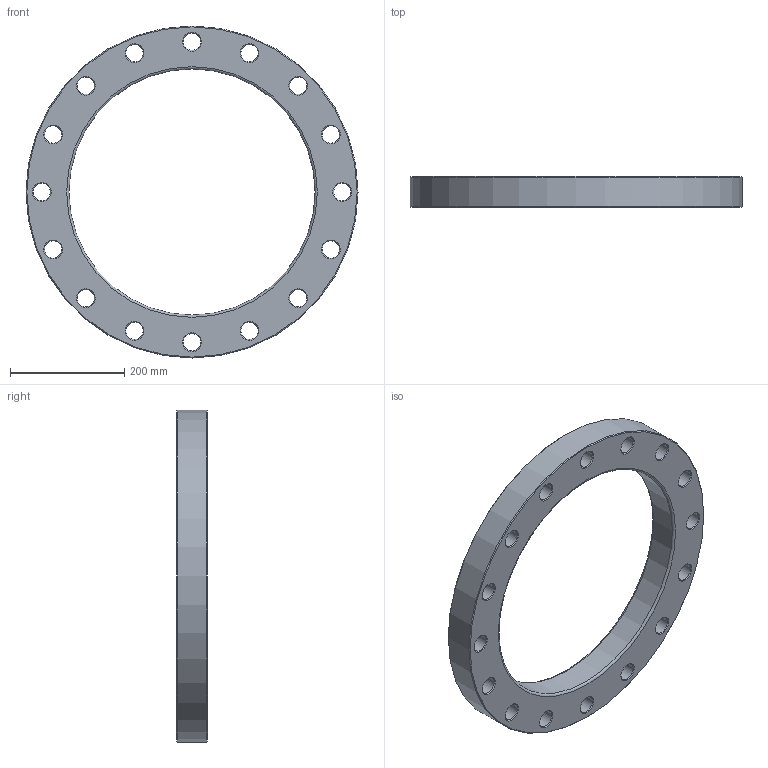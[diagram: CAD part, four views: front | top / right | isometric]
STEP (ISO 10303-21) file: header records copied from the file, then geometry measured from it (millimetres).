
FILE_DESCRIPTION(/* description */ ('Unknown'),/* implementation_level */ '2;1');
FILE_NAME(/* name */ 'FR400C',/* time_stamp */ '2022-07-05T17:20:38+02:00',/* author */ ('Unknown'),/* organization */ ('Unknown'),/* preprocessor_version */ 'ST-DEVELOPER v18.102',/* originating_system */ 'Solid Edge',/* authorisation */ 'Unknown');
FILE_SCHEMA (('AUTOMOTIVE_DESIGN {1 0 10303 214 3 1 1}'));
Length unit declared in the file: millimetre
Products named in the file (1): FR400C
Bounding box: 580 x 54 x 580 mm (x, y, z)
Volume: 5797702.6 mm3; surface area: 457740.2 mm2
Topology: 1 solids, 1 shells, 56 faces, 174 edges, 120 vertices
Faces by surface type: cone 34, cylinder 18, plane 2, torus 2
Full cylindrical faces by diameter (mm): 30 x16, 430 x1, 580 x1
Entity records: 1382 total; most frequent: DIRECTION 258, CARTESIAN_POINT 201, ORIENTED_EDGE 144, EDGE_LOOP 144, FACE_BOUND 144, AXIS2_PLACEMENT_3D 129, EDGE_CURVE 72, VERTEX_POINT 72
